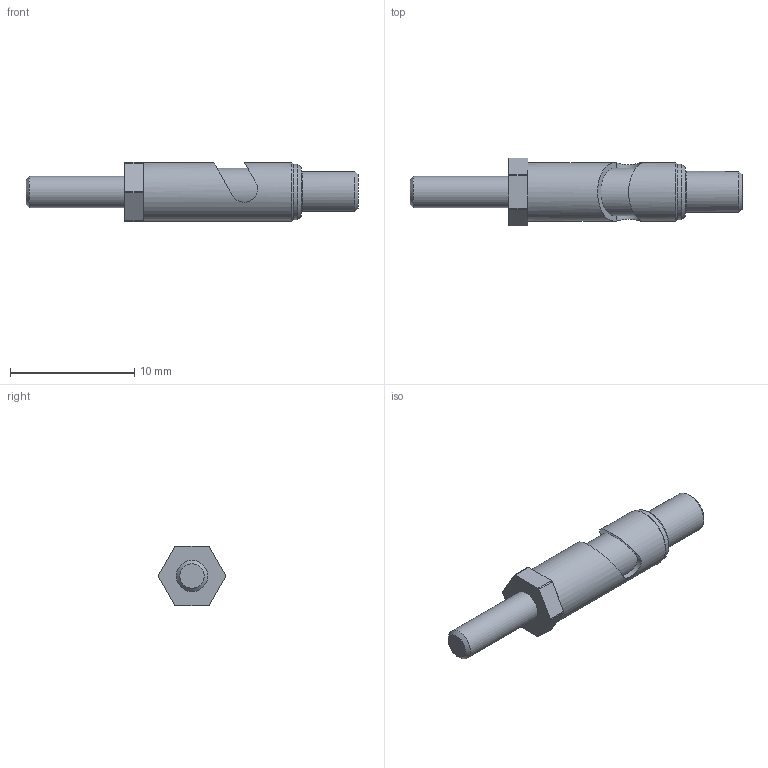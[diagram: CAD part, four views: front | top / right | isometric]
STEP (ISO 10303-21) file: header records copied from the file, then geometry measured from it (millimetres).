
FILE_DESCRIPTION(/* description */ (''),/* implementation_level */ '2;1');
FILE_NAME(/* name */ 'Z:\STEP folder\410-2339 Customer model.ipt.stp',/* time_stamp */ '2016-12-13T11:09:57+00:00',/* author */ ('paulk'),/* organization */ (''),/* preprocessor_version */ 'ST-DEVELOPER v15.2',/* originating_system */ 'Autodesk Inventor 2014',/* authorisation */ '');
FILE_SCHEMA (('AUTOMOTIVE_DESIGN { 1 0 10303 214 3 1 1 }'));
Length unit declared in the file: millimetre
Products named in the file (1): 410-2339 Customer model
Bounding box: 26.7 x 5.43 x 4.76 mm (x, y, z)
Volume: 314 mm3; surface area: 370.7 mm2
Topology: 1 solids, 1 shells, 36 faces, 90 edges, 58 vertices
Faces by surface type: plane 16, cylinder 14, cone 6
Full cylindrical faces by diameter (mm): 2.515 x1, 4.47 x1, 4.699 x1
Entity records: 1091 total; most frequent: CARTESIAN_POINT 256, DIRECTION 174, ORIENTED_EDGE 156, EDGE_CURVE 78, AXIS2_PLACEMENT_3D 67, VERTEX_POINT 55, EDGE_LOOP 47, LINE 40
